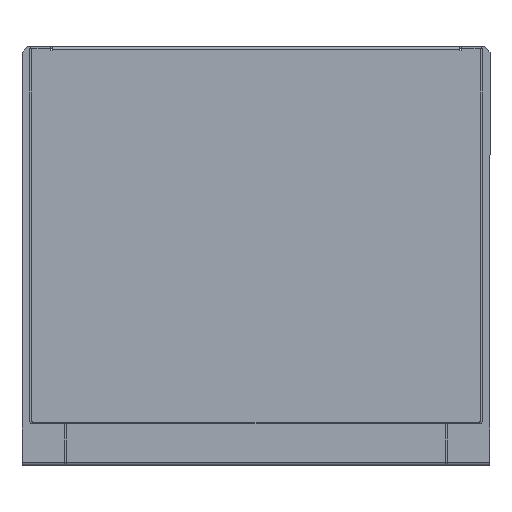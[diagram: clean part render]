
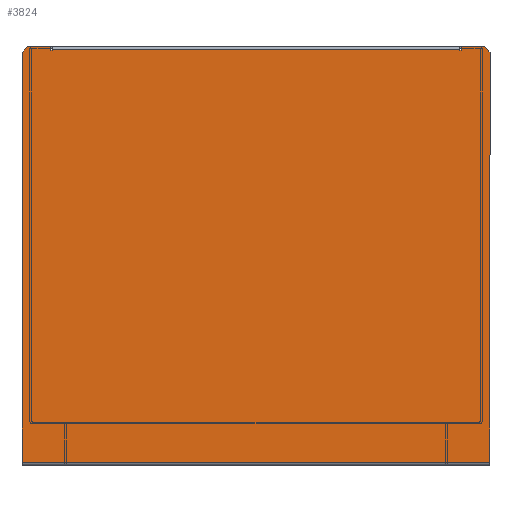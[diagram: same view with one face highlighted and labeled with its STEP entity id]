
A CAD part, front view. The second image highlights one B-rep face of the part: STEP entity #3824.
In plain terms, the highlighted planar face has unit normal (0, -1, 0).
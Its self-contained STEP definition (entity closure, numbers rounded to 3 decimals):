
#2537=CARTESIAN_POINT('',(134.227,-795.245,-370.681));
#2538=VERTEX_POINT('',#2537);
#2710=CARTESIAN_POINT('',(754.227,-795.245,-370.681));
#2711=VERTEX_POINT('',#2710);
#2930=CARTESIAN_POINT('',(134.227,-795.245,-370.681));
#2931=DIRECTION('',(1.0,0.0,0.0));
#2932=VECTOR('',#2931,620.0);
#2933=LINE('',#2930,#2932);
#2934=EDGE_CURVE('',#2538,#2711,#2933,.T.);
#2983=CARTESIAN_POINT('',(714.227,-795.245,175.319));
#2984=VERTEX_POINT('',#2983);
#3138=CARTESIAN_POINT('',(174.227,-795.245,175.319));
#3139=VERTEX_POINT('',#3138);
#3262=CARTESIAN_POINT('',(714.227,-795.245,175.319));
#3263=DIRECTION('',(-1.0,0.0,0.0));
#3264=VECTOR('',#3263,540.0);
#3265=LINE('',#3262,#3264);
#3266=EDGE_CURVE('',#2984,#3139,#3265,.T.);
#3277=CARTESIAN_POINT('',(172.227,-795.245,179.819));
#3278=VERTEX_POINT('',#3277);
#3279=CARTESIAN_POINT('',(172.227,-795.245,174.819));
#3280=VERTEX_POINT('',#3279);
#3281=CARTESIAN_POINT('',(172.227,-795.245,179.819));
#3282=DIRECTION('',(0.0,0.0,-1.0));
#3283=VECTOR('',#3282,5.0);
#3284=LINE('',#3281,#3283);
#3285=EDGE_CURVE('',#3278,#3280,#3284,.T.);
#3318=CARTESIAN_POINT('',(174.227,-795.245,174.819));
#3319=VERTEX_POINT('',#3318);
#3320=CARTESIAN_POINT('',(172.227,-795.245,174.819));
#3321=DIRECTION('',(1.0,0.0,0.0));
#3322=VECTOR('',#3321,2.0);
#3323=LINE('',#3320,#3322);
#3324=EDGE_CURVE('',#3280,#3319,#3323,.T.);
#3355=CARTESIAN_POINT('',(174.227,-795.245,175.319));
#3356=DIRECTION('',(0.0,0.0,-1.0));
#3357=VECTOR('',#3356,0.5);
#3358=LINE('',#3355,#3357);
#3359=EDGE_CURVE('',#3139,#3319,#3358,.T.);
#3380=CARTESIAN_POINT('',(716.227,-795.245,174.819));
#3381=VERTEX_POINT('',#3380);
#3388=CARTESIAN_POINT('',(716.227,-795.245,179.819));
#3389=VERTEX_POINT('',#3388);
#3390=CARTESIAN_POINT('',(716.227,-795.245,179.819));
#3391=DIRECTION('',(0.0,0.0,-1.0));
#3392=VECTOR('',#3391,5.);
#3393=LINE('',#3390,#3392);
#3394=EDGE_CURVE('',#3389,#3381,#3393,.T.);
#3419=CARTESIAN_POINT('',(714.227,-795.245,174.819));
#3420=VERTEX_POINT('',#3419);
#3427=CARTESIAN_POINT('',(716.227,-795.245,174.819));
#3428=DIRECTION('',(-1.0,0.0,0.0));
#3429=VECTOR('',#3428,2.0);
#3430=LINE('',#3427,#3429);
#3431=EDGE_CURVE('',#3381,#3420,#3430,.T.);
#3441=CARTESIAN_POINT('',(714.227,-795.245,175.319));
#3442=DIRECTION('',(0.0,0.0,-1.0));
#3443=VECTOR('',#3442,0.5);
#3444=LINE('',#3441,#3443);
#3445=EDGE_CURVE('',#2984,#3420,#3444,.T.);
#3632=CARTESIAN_POINT('',(134.227,-795.245,172.319));
#3633=VERTEX_POINT('',#3632);
#3640=CARTESIAN_POINT('',(141.727,-795.245,179.819));
#3641=VERTEX_POINT('',#3640);
#3642=CARTESIAN_POINT('',(134.227,-795.245,172.319));
#3643=DIRECTION('',(0.707,0.0,0.707));
#3644=VECTOR('',#3643,10.607);
#3645=LINE('',#3642,#3644);
#3646=EDGE_CURVE('',#3633,#3641,#3645,.T.);
#3678=CARTESIAN_POINT('',(141.727,-795.245,179.819));
#3679=DIRECTION('',(1.0,0.0,0.0));
#3680=VECTOR('',#3679,30.5);
#3681=LINE('',#3678,#3680);
#3682=EDGE_CURVE('',#3641,#3278,#3681,.T.);
#3692=CARTESIAN_POINT('',(134.227,-795.245,172.319));
#3693=DIRECTION('',(0.0,0.0,-1.0));
#3694=VECTOR('',#3693,543.0);
#3695=LINE('',#3692,#3694);
#3696=EDGE_CURVE('',#3633,#2538,#3695,.T.);
#3768=CARTESIAN_POINT('',(746.727,-795.245,179.819));
#3769=VERTEX_POINT('',#3768);
#3776=CARTESIAN_POINT('',(754.227,-795.245,172.319));
#3777=VERTEX_POINT('',#3776);
#3778=CARTESIAN_POINT('',(754.227,-795.245,172.319));
#3779=DIRECTION('',(-0.707,0.0,0.707));
#3780=VECTOR('',#3779,10.607);
#3781=LINE('',#3778,#3780);
#3782=EDGE_CURVE('',#3777,#3769,#3781,.T.);
#3793=CARTESIAN_POINT('',(134.227,-795.245,179.819));
#3794=DIRECTION('',(0.0,-1.0,0.0));
#3795=DIRECTION('',(0.0,0.0,-1.0));
#3796=AXIS2_PLACEMENT_3D('',#3793,#3794,#3795);
#3797=PLANE('',#3796);
#3798=ORIENTED_EDGE('',*,*,#3394,.T.);
#3799=ORIENTED_EDGE('',*,*,#3431,.T.);
#3800=ORIENTED_EDGE('',*,*,#3445,.F.);
#3801=ORIENTED_EDGE('',*,*,#3266,.T.);
#3802=ORIENTED_EDGE('',*,*,#3359,.T.);
#3803=ORIENTED_EDGE('',*,*,#3324,.F.);
#3804=ORIENTED_EDGE('',*,*,#3285,.F.);
#3805=ORIENTED_EDGE('',*,*,#3682,.F.);
#3806=ORIENTED_EDGE('',*,*,#3646,.F.);
#3807=ORIENTED_EDGE('',*,*,#3696,.T.);
#3808=ORIENTED_EDGE('',*,*,#2934,.T.);
#3809=CARTESIAN_POINT('',(754.227,-795.245,172.319));
#3810=DIRECTION('',(0.0,0.0,-1.0));
#3811=VECTOR('',#3810,543.);
#3812=LINE('',#3809,#3811);
#3813=EDGE_CURVE('',#3777,#2711,#3812,.T.);
#3814=ORIENTED_EDGE('',*,*,#3813,.F.);
#3815=ORIENTED_EDGE('',*,*,#3782,.T.);
#3816=CARTESIAN_POINT('',(716.227,-795.245,179.819));
#3817=DIRECTION('',(1.0,0.0,0.0));
#3818=VECTOR('',#3817,30.5);
#3819=LINE('',#3816,#3818);
#3820=EDGE_CURVE('',#3389,#3769,#3819,.T.);
#3821=ORIENTED_EDGE('',*,*,#3820,.F.);
#3822=EDGE_LOOP('',(#3798,#3799,#3800,#3801,#3802,#3803,#3804,#3805,#3806,#3807,#3808,#3814,#3815,#3821));
#3823=FACE_OUTER_BOUND('',#3822,.T.);
#3824=ADVANCED_FACE('',(#3823),#3797,.T.);
